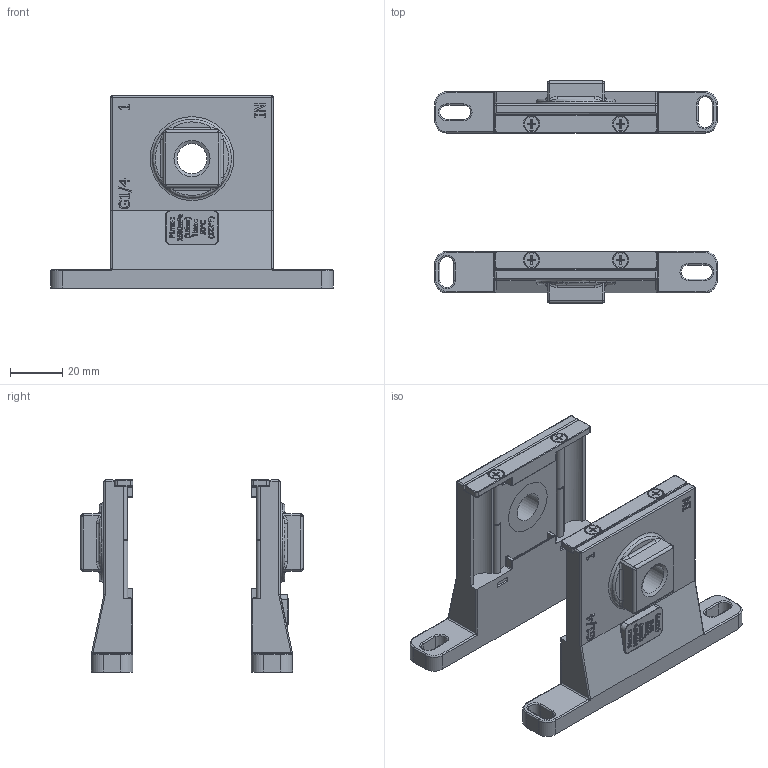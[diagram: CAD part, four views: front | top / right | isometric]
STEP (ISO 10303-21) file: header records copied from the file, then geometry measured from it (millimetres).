
FILE_DESCRIPTION(/* description */ (''),/* implementation_level */ '2;1');
FILE_NAME(/* name */ 'C:\Users\DDruske\Desktop\KKOP-114K .stp',/* time_stamp */ '2016-02-08T09:49:11+01:00',/* author */ ('DDruske'),/* organization */ (''),/* preprocessor_version */ 'ST-DEVELOPER v16.1',/* originating_system */ 'Autodesk Inventor 2016',/* authorisation */ '');
FILE_SCHEMA (('AUTOMOTIVE_DESIGN { 1 0 10303 214 3 1 1 }'));
Products named in the file (1): 10015868_Shrinkwrap_1
Bounding box: 108 x 84.8 x 73.3 mm (x, y, z)
Volume: 75629 mm3; surface area: 44636.1 mm2
Topology: 2 solids, 4 shells, 2305 faces, 6105 edges, 3880 vertices
Faces by surface type: plane 1022, bspline 651, cylinder 446, torus 106, cone 56, sphere 24
Full cylindrical faces by diameter (mm): 0.25 x24, 0.3 x8, 2.693 x4, 3 x8, 3.2 x8, 5.5 x4, 6 x2, 11.445 x2
Entity records: 78570 total; most frequent: CARTESIAN_POINT 23796, ORIENTED_EDGE 11838, DIRECTION 8961, EDGE_CURVE 5917, VERTEX_POINT 3854, LINE 3375, VECTOR 3375, AXIS2_PLACEMENT_3D 2793
